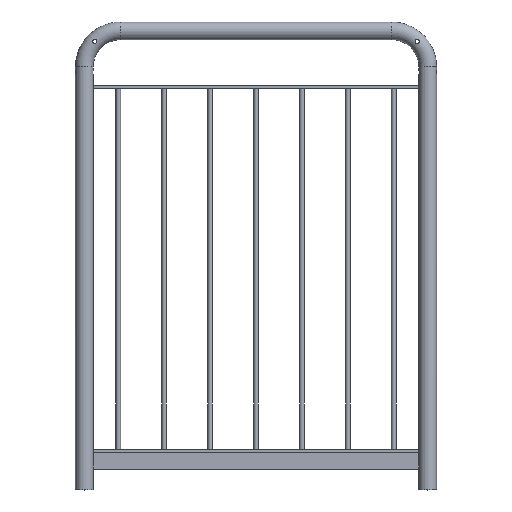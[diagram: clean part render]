
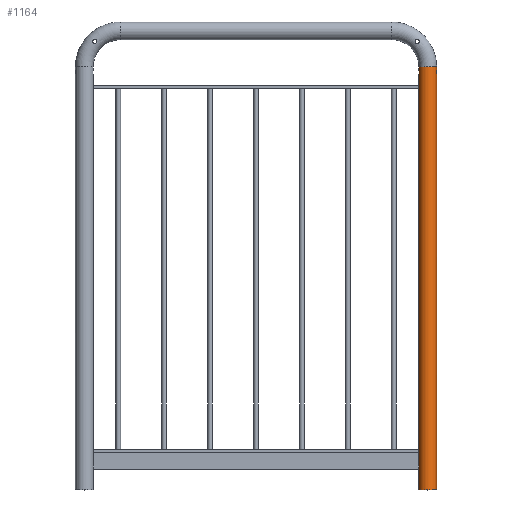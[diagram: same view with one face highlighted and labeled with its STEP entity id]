
A CAD part, top view. The second image highlights one B-rep face of the part: STEP entity #1164.
In plain terms, the highlighted cylindrical face has radius 21.2 mm (diameter 42.4 mm), a full revolution.
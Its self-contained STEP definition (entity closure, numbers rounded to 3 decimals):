
#288=CARTESIAN_POINT('',(802.526,1001.2,5.5));
#289=VERTEX_POINT('',#288);
#290=CARTESIAN_POINT('',(802.526,1001.2,5.5));
#291=CARTESIAN_POINT('',(802.526,1000.506,5.5));
#292=CARTESIAN_POINT('',(802.487,999.768,5.361));
#293=CARTESIAN_POINT('',(802.348,998.414,4.798));
#294=CARTESIAN_POINT('',(802.251,997.797,4.376));
#295=CARTESIAN_POINT('',(802.069,996.824,3.403));
#296=CARTESIAN_POINT('',(801.973,996.402,2.786));
#297=CARTESIAN_POINT('',(801.837,995.839,1.432));
#298=CARTESIAN_POINT('',(801.8,995.7,0.694));
#299=CARTESIAN_POINT('',(801.8,995.7,-0.694));
#300=CARTESIAN_POINT('',(801.837,995.839,-1.432));
#301=CARTESIAN_POINT('',(801.973,996.402,-2.786));
#302=CARTESIAN_POINT('',(802.069,996.824,-3.403));
#303=CARTESIAN_POINT('',(802.251,997.797,-4.376));
#304=CARTESIAN_POINT('',(802.348,998.414,-4.798));
#305=CARTESIAN_POINT('',(802.487,999.768,-5.361));
#306=CARTESIAN_POINT('',(802.526,1000.506,-5.5));
#307=CARTESIAN_POINT('',(802.526,1001.894,-5.5));
#308=CARTESIAN_POINT('',(802.487,1002.632,-5.361));
#309=CARTESIAN_POINT('',(802.348,1003.986,-4.798));
#310=CARTESIAN_POINT('',(802.251,1004.603,-4.376));
#311=CARTESIAN_POINT('',(802.069,1005.576,-3.403));
#312=CARTESIAN_POINT('',(801.973,1005.998,-2.786));
#313=CARTESIAN_POINT('',(801.837,1006.561,-1.432));
#314=CARTESIAN_POINT('',(801.8,1006.7,-0.694));
#315=CARTESIAN_POINT('',(801.8,1006.7,0.694));
#316=CARTESIAN_POINT('',(801.837,1006.561,1.432));
#317=CARTESIAN_POINT('',(801.973,1005.998,2.786));
#318=CARTESIAN_POINT('',(802.069,1005.576,3.403));
#319=CARTESIAN_POINT('',(802.251,1004.603,4.376));
#320=CARTESIAN_POINT('',(802.348,1003.986,4.798));
#321=CARTESIAN_POINT('',(802.487,1002.632,5.361));
#322=CARTESIAN_POINT('',(802.526,1001.894,5.5));
#323=CARTESIAN_POINT('',(802.526,1001.2,5.5));
#324=B_SPLINE_CURVE_WITH_KNOTS('',3,(#290,#291,#292,#293,#294,#295,#296,#297,#298,#299,#300,#301,#302,#303,#304,#305,#306,#307,#308,#309,#310,#311,#312,#313,#314,#315,#316,#317,#318,#319,#320,#321,#322,#323),.UNSPECIFIED.,.T.,.U.,(4,2,2,2,2,2,2,2,2,2,2,2,2,2,2,2,4),(0.0,0.208,0.416,0.625,0.833,1.041,1.249,1.457,1.666,1.874,2.082,2.29,2.498,2.707,2.915,3.123,3.331),.UNSPECIFIED.);
#325=EDGE_CURVE('',#289,#289,#324,.T.);
#417=CARTESIAN_POINT('',(843.474,1001.2,5.5));
#418=VERTEX_POINT('',#417);
#419=CARTESIAN_POINT('',(843.474,1001.2,5.5));
#420=CARTESIAN_POINT('',(843.474,1001.894,5.5));
#421=CARTESIAN_POINT('',(843.513,1002.632,5.361));
#422=CARTESIAN_POINT('',(843.652,1003.986,4.798));
#423=CARTESIAN_POINT('',(843.749,1004.603,4.376));
#424=CARTESIAN_POINT('',(843.931,1005.576,3.403));
#425=CARTESIAN_POINT('',(844.027,1005.998,2.786));
#426=CARTESIAN_POINT('',(844.163,1006.561,1.432));
#427=CARTESIAN_POINT('',(844.2,1006.7,0.694));
#428=CARTESIAN_POINT('',(844.2,1006.7,-0.694));
#429=CARTESIAN_POINT('',(844.163,1006.561,-1.432));
#430=CARTESIAN_POINT('',(844.027,1005.998,-2.786));
#431=CARTESIAN_POINT('',(843.931,1005.576,-3.403));
#432=CARTESIAN_POINT('',(843.749,1004.603,-4.376));
#433=CARTESIAN_POINT('',(843.652,1003.986,-4.798));
#434=CARTESIAN_POINT('',(843.513,1002.632,-5.361));
#435=CARTESIAN_POINT('',(843.474,1001.894,-5.5));
#436=CARTESIAN_POINT('',(843.474,1000.506,-5.5));
#437=CARTESIAN_POINT('',(843.513,999.768,-5.361));
#438=CARTESIAN_POINT('',(843.652,998.414,-4.798));
#439=CARTESIAN_POINT('',(843.749,997.797,-4.376));
#440=CARTESIAN_POINT('',(843.931,996.824,-3.403));
#441=CARTESIAN_POINT('',(844.027,996.402,-2.786));
#442=CARTESIAN_POINT('',(844.163,995.839,-1.432));
#443=CARTESIAN_POINT('',(844.2,995.7,-0.694));
#444=CARTESIAN_POINT('',(844.2,995.7,0.694));
#445=CARTESIAN_POINT('',(844.163,995.839,1.432));
#446=CARTESIAN_POINT('',(844.027,996.402,2.786));
#447=CARTESIAN_POINT('',(843.931,996.824,3.403));
#448=CARTESIAN_POINT('',(843.749,997.797,4.376));
#449=CARTESIAN_POINT('',(843.652,998.414,4.798));
#450=CARTESIAN_POINT('',(843.513,999.768,5.361));
#451=CARTESIAN_POINT('',(843.474,1000.506,5.5));
#452=CARTESIAN_POINT('',(843.474,1001.2,5.5));
#453=B_SPLINE_CURVE_WITH_KNOTS('',3,(#419,#420,#421,#422,#423,#424,#425,#426,#427,#428,#429,#430,#431,#432,#433,#434,#435,#436,#437,#438,#439,#440,#441,#442,#443,#444,#445,#446,#447,#448,#449,#450,#451,#452),.UNSPECIFIED.,.T.,.U.,(4,2,2,2,2,2,2,2,2,2,2,2,2,2,2,2,4),(0.0,0.208,0.416,0.625,0.833,1.041,1.249,1.457,1.666,1.874,2.082,2.29,2.498,2.707,2.915,3.123,3.331),.UNSPECIFIED.);
#454=EDGE_CURVE('',#418,#418,#453,.T.);
#1131=CARTESIAN_POINT('',(823.,1013.5,0.0));
#1132=DIRECTION('',(0.0,-1.0,0.0));
#1133=DIRECTION('',(-1.0,0.0,0.0));
#1134=AXIS2_PLACEMENT_3D('',#1131,#1132,#1133);
#1135=CYLINDRICAL_SURFACE('',#1134,21.2);
#1136=CARTESIAN_POINT('',(844.2,0.0,0.));
#1137=VERTEX_POINT('',#1136);
#1138=CARTESIAN_POINT('',(823.,0.0,0.0));
#1139=DIRECTION('',(0.0,1.0,0.0));
#1140=DIRECTION('',(-1.0,0.0,0.0));
#1141=AXIS2_PLACEMENT_3D('',#1138,#1139,#1140);
#1142=CIRCLE('',#1141,21.2);
#1143=EDGE_CURVE('',#1137,#1137,#1142,.T.);
#1144=ORIENTED_EDGE('',*,*,#1143,.T.);
#1145=EDGE_LOOP('',(#1144));
#1146=FACE_OUTER_BOUND('',#1145,.T.);
#1147=ORIENTED_EDGE('',*,*,#454,.T.);
#1148=EDGE_LOOP('',(#1147));
#1149=FACE_BOUND('',#1148,.T.);
#1150=ORIENTED_EDGE('',*,*,#325,.T.);
#1151=EDGE_LOOP('',(#1150));
#1152=FACE_BOUND('',#1151,.T.);
#1153=CARTESIAN_POINT('',(844.2,1013.5,0.));
#1154=VERTEX_POINT('',#1153);
#1155=CARTESIAN_POINT('',(823.,1013.5,0.0));
#1156=DIRECTION('',(0.0,1.0,0.0));
#1157=DIRECTION('',(-1.0,0.0,0.0));
#1158=AXIS2_PLACEMENT_3D('',#1155,#1156,#1157);
#1159=CIRCLE('',#1158,21.2);
#1160=EDGE_CURVE('',#1154,#1154,#1159,.T.);
#1161=ORIENTED_EDGE('',*,*,#1160,.F.);
#1162=EDGE_LOOP('',(#1161));
#1163=FACE_BOUND('',#1162,.T.);
#1164=ADVANCED_FACE('',(#1146,#1149,#1152,#1163),#1135,.T.);
